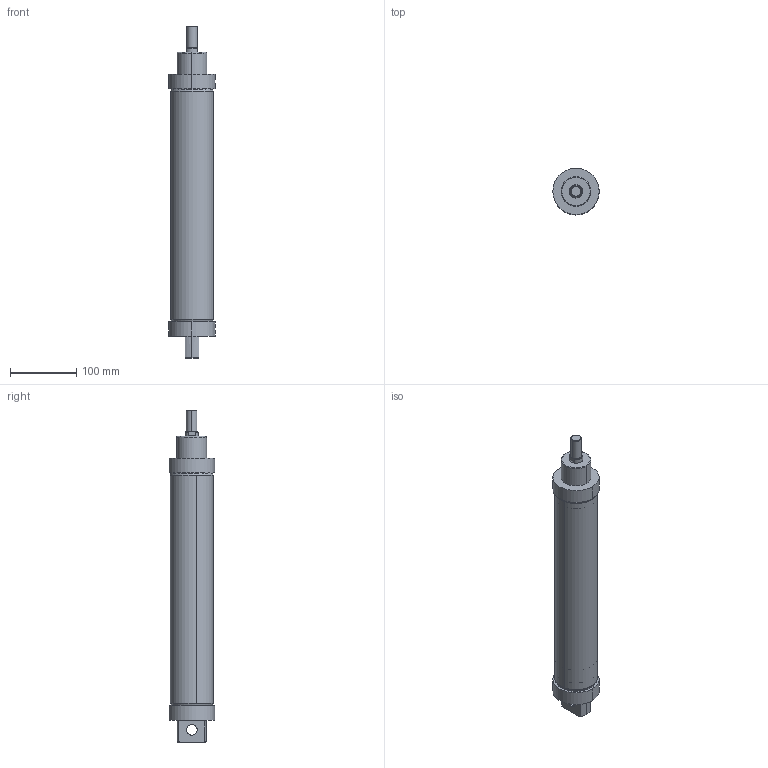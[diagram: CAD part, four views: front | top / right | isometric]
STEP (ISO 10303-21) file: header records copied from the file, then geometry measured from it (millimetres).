
FILE_DESCRIPTION (( 'STEP AP203' ), '1' );
FILE_NAME ('MAC6432S-63X300-CYLINDER.STEP', '2017-02-06T06:36:41', ( 'user' ), ( '' ), 'SwSTEP 2.0', 'SolidWorks 2013', '' );
FILE_SCHEMA (( 'CONFIG_CONTROL_DESIGN' ));
Length unit declared in the file: millimetre
Products named in the file (5): MAC6432S  63X300 BORU; MAC6432S-63X300-CYLINDER; MAC6432S  63 ARKA KAPAK SIFIR; MAC6432S  63 烰 KAPAK SIFIR; MAC6432S  63X300 M尳
Assembly tree (4 placements, depth 2):
  MAC6432S-63X300-CYLINDER
    MAC6432S  63 ARKA KAPAK SIFIR
    MAC6432S  63 烰 KAPAK SIFIR
    MAC6432S  63X300 M尳
    MAC6432S  63X300 BORU
Bounding box: 69.98 x 69.03 x 502.8 mm (x, y, z)
Volume: 577349.2 mm3; surface area: 222168.2 mm2
Topology: 4 solids, 4 shells, 91 faces, 199 edges, 129 vertices
Faces by surface type: cylinder 44, plane 30, cone 12, torus 5
Entity records: 3384 total; most frequent: CARTESIAN_POINT 781, DIRECTION 477, ORIENTED_EDGE 398, AXIS2_PLACEMENT_3D 201, EDGE_CURVE 199, VERTEX_POINT 129, EDGE_LOOP 114, CIRCLE 104
